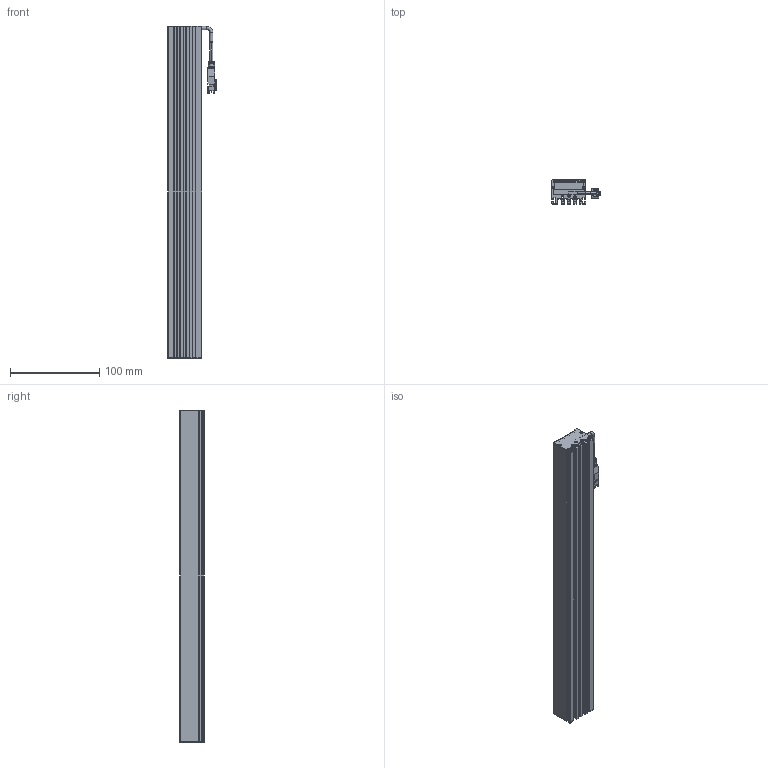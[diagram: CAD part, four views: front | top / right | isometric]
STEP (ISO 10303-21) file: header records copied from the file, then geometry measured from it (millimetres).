
FILE_DESCRIPTION (( 'STEP AP203' ), '1' );
FILE_NAME ('LBD-372L-潠眢3D芞.STEP', '2021-06-16T08:09:52', ( 'Windows 蚚誧' ), ( 'Organization' ), 'SwSTEP 2.0', 'SolidWorks 2018', '' );
FILE_SCHEMA (( 'CONFIG_CONTROL_DESIGN' ));
Length unit declared in the file: millimetre
Products named in the file (1): LBD-372L-潠眢3D芞
Bounding box: 54.16 x 27 x 372 mm (x, y, z)
Surface area: 141353.9 mm2 (no closed solid volume)
Topology: 0 solids, 8 shells, 889 faces, 2541 edges, 1653 vertices
Faces by surface type: plane 458, cylinder 369, cone 28, bspline 28, torus 6
Entity records: 29635 total; most frequent: CARTESIAN_POINT 5977, ORIENTED_EDGE 5003, DIRECTION 4968, EDGE_CURVE 2525, LINE 1676, VECTOR 1676, VERTEX_POINT 1653, AXIS2_PLACEMENT_3D 1646
